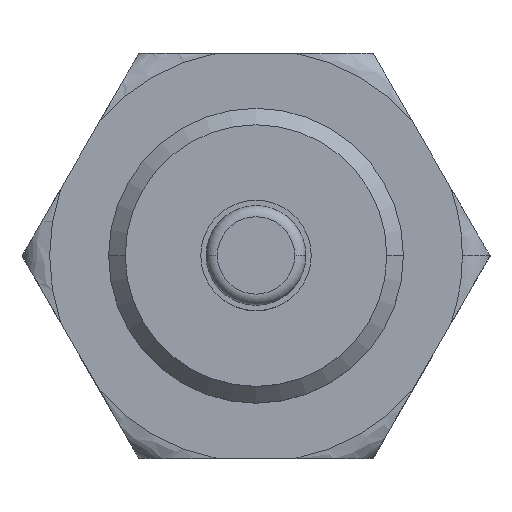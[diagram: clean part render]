
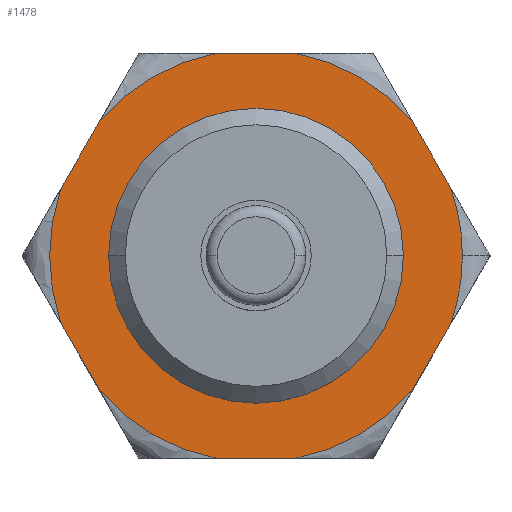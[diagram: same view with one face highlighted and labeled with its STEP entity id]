
A CAD part, top view. The second image highlights one B-rep face of the part: STEP entity #1478.
In plain terms, the highlighted planar face has unit normal (0, 0, 1).
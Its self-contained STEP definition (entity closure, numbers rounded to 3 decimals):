
#7 = VERTEX_POINT ( 'NONE', #547 ) ;
#14 = CARTESIAN_POINT ( 'NONE',  ( -8.468, 7.333, 3. ) ) ;
#25 = CIRCLE ( 'NONE', #1703, 8. ) ;
#32 = DIRECTION ( 'NONE',  ( 0., 0., 1. ) ) ;
#89 = EDGE_CURVE ( 'NONE', #1246, #529, #327, .T. ) ;
#97 = CARTESIAN_POINT ( 'NONE',  ( 8., 0., 3. ) ) ;
#109 = VERTEX_POINT ( 'NONE', #393 ) ;
#114 = EDGE_CURVE ( 'NONE', #364, #7, #1498, .T. ) ;
#141 = VERTEX_POINT ( 'NONE', #1108 ) ;
#143 = EDGE_CURVE ( 'NONE', #1560, #1518, #1914, .T. ) ;
#177 = PLANE ( 'NONE',  #1301 ) ;
#179 = ORIENTED_EDGE ( 'NONE', *, *, #1468, .T. ) ;
#185 = CARTESIAN_POINT ( 'NONE',  ( 0., 0., 3. ) ) ;
#191 = CIRCLE ( 'NONE', #461, 11.202 ) ;
#209 = EDGE_CURVE ( 'NONE', #109, #942, #1272, .T. ) ;
#220 = DIRECTION ( 'NONE',  ( 0., 0., 1. ) ) ;
#221 = AXIS2_PLACEMENT_3D ( 'NONE', #1201, #1668, #1229 ) ;
#242 = DIRECTION ( 'NONE',  ( 0.5, -0.866, 0. ) ) ;
#255 = CARTESIAN_POINT ( 'NONE',  ( -6.351, 11., 3. ) ) ;
#256 = EDGE_CURVE ( 'NONE', #141, #1461, #1944, .T. ) ;
#282 = CARTESIAN_POINT ( 'NONE',  ( -6.351, -11., 3. ) ) ;
#285 = DIRECTION ( 'NONE',  ( -0.5, 0.866, 0. ) ) ;
#300 = DIRECTION ( 'NONE',  ( -1., 0., 0. ) ) ;
#305 = ORIENTED_EDGE ( 'NONE', *, *, #1443, .T. ) ;
#307 = LINE ( 'NONE', #944, #996 ) ;
#327 = CIRCLE ( 'NONE', #388, 11.202 ) ;
#343 = DIRECTION ( 'NONE',  ( 0., 0., -1. ) ) ;
#354 = AXIS2_PLACEMENT_3D ( 'NONE', #805, #32, #813 ) ;
#363 = DIRECTION ( 'NONE',  ( 0., 0., 1. ) ) ;
#364 = VERTEX_POINT ( 'NONE', #97 ) ;
#388 = AXIS2_PLACEMENT_3D ( 'NONE', #572, #560, #1032 ) ;
#393 = CARTESIAN_POINT ( 'NONE',  ( 8.468, 7.333, 3. ) ) ;
#410 = EDGE_CURVE ( 'NONE', #1618, #1425, #307, .T. ) ;
#424 = ORIENTED_EDGE ( 'NONE', *, *, #256, .T. ) ;
#461 = AXIS2_PLACEMENT_3D ( 'NONE', #185, #677, #1951 ) ;
#491 = DIRECTION ( 'NONE',  ( 1., 0., 0. ) ) ;
#501 = EDGE_CURVE ( 'NONE', #1113, #1987, #191, .T. ) ;
#512 = CARTESIAN_POINT ( 'NONE',  ( 0., 0., 3. ) ) ;
#529 = VERTEX_POINT ( 'NONE', #1968 ) ;
#547 = CARTESIAN_POINT ( 'NONE',  ( -8., 0., 3. ) ) ;
#551 = DIRECTION ( 'NONE',  ( 0., 0., 1. ) ) ;
#559 = EDGE_CURVE ( 'NONE', #7, #364, #25, .T. ) ;
#560 = DIRECTION ( 'NONE',  ( 0., 0., 1. ) ) ;
#564 = ORIENTED_EDGE ( 'NONE', *, *, #89, .T. ) ;
#572 = CARTESIAN_POINT ( 'NONE',  ( 0., 0., 3. ) ) ;
#576 = EDGE_CURVE ( 'NONE', #1467, #1560, #1061, .T. ) ;
#626 = LINE ( 'NONE', #1895, #1966 ) ;
#649 = LINE ( 'NONE', #2047, #1794 ) ;
#677 = DIRECTION ( 'NONE',  ( 0., 0., 1. ) ) ;
#679 = ORIENTED_EDGE ( 'NONE', *, *, #114, .F. ) ;
#689 = ORIENTED_EDGE ( 'NONE', *, *, #921, .T. ) ;
#713 = CIRCLE ( 'NONE', #1125, 11.202 ) ;
#790 = EDGE_CURVE ( 'NONE', #1425, #1246, #966, .T. ) ;
#805 = CARTESIAN_POINT ( 'NONE',  ( 0., 0., 3. ) ) ;
#811 = EDGE_LOOP ( 'NONE', ( #305, #1785, #2079, #424, #689, #1997, #1278, #1590, #1686, #179, #903, #1287, #564 ) ) ;
#813 = DIRECTION ( 'NONE',  ( 1., 0., 0. ) ) ;
#814 = DIRECTION ( 'NONE',  ( 1., 0., 0. ) ) ;
#829 = DIRECTION ( 'NONE',  ( 1., 0., 0. ) ) ;
#891 = CARTESIAN_POINT ( 'NONE',  ( -12.702, 0., 3. ) ) ;
#903 = ORIENTED_EDGE ( 'NONE', *, *, #410, .T. ) ;
#921 = EDGE_CURVE ( 'NONE', #1461, #1113, #1712, .T. ) ;
#934 = EDGE_CURVE ( 'NONE', #1987, #1467, #1386, .T. ) ;
#938 = CARTESIAN_POINT ( 'NONE',  ( -10.584, 3.667, 3. ) ) ;
#942 = VERTEX_POINT ( 'NONE', #2024 ) ;
#944 = CARTESIAN_POINT ( 'NONE',  ( 6.351, -11., 3. ) ) ;
#966 = CIRCLE ( 'NONE', #1310, 11.202 ) ;
#969 = DIRECTION ( 'NONE',  ( 0., 0., 1. ) ) ;
#996 = VECTOR ( 'NONE', #1267, 1000. ) ;
#1032 = DIRECTION ( 'NONE',  ( 1., 0., 0. ) ) ;
#1036 = EDGE_CURVE ( 'NONE', #942, #141, #649, .T. ) ;
#1061 = CIRCLE ( 'NONE', #354, 11.202 ) ;
#1076 = EDGE_LOOP ( 'NONE', ( #1205, #679 ) ) ;
#1084 = CARTESIAN_POINT ( 'NONE',  ( 10.584, -3.667, 3. ) ) ;
#1089 = DIRECTION ( 'NONE',  ( 1., 0., 0. ) ) ;
#1108 = CARTESIAN_POINT ( 'NONE',  ( -2.116, 11., 3. ) ) ;
#1113 = VERTEX_POINT ( 'NONE', #938 ) ;
#1125 = AXIS2_PLACEMENT_3D ( 'NONE', #1150, #363, #814 ) ;
#1126 = FACE_OUTER_BOUND ( 'NONE', #811, .T. ) ;
#1141 = CARTESIAN_POINT ( 'NONE',  ( 0., -22., 3. ) ) ;
#1150 = CARTESIAN_POINT ( 'NONE',  ( 0., 0., 3. ) ) ;
#1196 = CARTESIAN_POINT ( 'NONE',  ( 11.202, 0., 3. ) ) ;
#1201 = CARTESIAN_POINT ( 'NONE',  ( 0., 0., 3. ) ) ;
#1205 = ORIENTED_EDGE ( 'NONE', *, *, #559, .F. ) ;
#1229 = DIRECTION ( 'NONE',  ( 1., 0., 0. ) ) ;
#1246 = VERTEX_POINT ( 'NONE', #1196 ) ;
#1267 = DIRECTION ( 'NONE',  ( 0.5, 0.866, 0. ) ) ;
#1272 = CIRCLE ( 'NONE', #1471, 11.202 ) ;
#1278 = ORIENTED_EDGE ( 'NONE', *, *, #934, .T. ) ;
#1286 = DIRECTION ( 'NONE',  ( 1., 0., 0. ) ) ;
#1287 = ORIENTED_EDGE ( 'NONE', *, *, #790, .T. ) ;
#1301 = AXIS2_PLACEMENT_3D ( 'NONE', #1141, #343, #1807 ) ;
#1310 = AXIS2_PLACEMENT_3D ( 'NONE', #1620, #220, #491 ) ;
#1386 = LINE ( 'NONE', #891, #2045 ) ;
#1425 = VERTEX_POINT ( 'NONE', #1084 ) ;
#1443 = EDGE_CURVE ( 'NONE', #529, #109, #626, .T. ) ;
#1455 = CARTESIAN_POINT ( 'NONE',  ( -8.468, -7.333, 3. ) ) ;
#1461 = VERTEX_POINT ( 'NONE', #14 ) ;
#1467 = VERTEX_POINT ( 'NONE', #1455 ) ;
#1468 = EDGE_CURVE ( 'NONE', #1518, #1618, #713, .T. ) ;
#1471 = AXIS2_PLACEMENT_3D ( 'NONE', #2050, #1769, #1286 ) ;
#1475 = CARTESIAN_POINT ( 'NONE',  ( 2.116, -11., 3. ) ) ;
#1478 = ADVANCED_FACE ( 'NONE', ( #1625, #1126 ), #177, .F. ) ;
#1498 = CIRCLE ( 'NONE', #221, 8. ) ;
#1503 = VECTOR ( 'NONE', #1688, 1000. ) ;
#1518 = VERTEX_POINT ( 'NONE', #1475 ) ;
#1538 = AXIS2_PLACEMENT_3D ( 'NONE', #1866, #551, #1683 ) ;
#1560 = VERTEX_POINT ( 'NONE', #1970 ) ;
#1590 = ORIENTED_EDGE ( 'NONE', *, *, #576, .T. ) ;
#1618 = VERTEX_POINT ( 'NONE', #1995 ) ;
#1620 = CARTESIAN_POINT ( 'NONE',  ( 0., 0., 3. ) ) ;
#1625 = FACE_BOUND ( 'NONE', #1076, .T. ) ;
#1668 = DIRECTION ( 'NONE',  ( 0., 0., 1. ) ) ;
#1683 = DIRECTION ( 'NONE',  ( 1., 0., 0. ) ) ;
#1686 = ORIENTED_EDGE ( 'NONE', *, *, #143, .T. ) ;
#1688 = DIRECTION ( 'NONE',  ( -0.5, -0.866, 0. ) ) ;
#1703 = AXIS2_PLACEMENT_3D ( 'NONE', #512, #969, #829 ) ;
#1712 = LINE ( 'NONE', #255, #1503 ) ;
#1769 = DIRECTION ( 'NONE',  ( 0., 0., 1. ) ) ;
#1785 = ORIENTED_EDGE ( 'NONE', *, *, #209, .T. ) ;
#1794 = VECTOR ( 'NONE', #300, 1000. ) ;
#1807 = DIRECTION ( 'NONE',  ( -1., 0., 0. ) ) ;
#1866 = CARTESIAN_POINT ( 'NONE',  ( 0., 0., 3. ) ) ;
#1895 = CARTESIAN_POINT ( 'NONE',  ( 12.702, 0., 3. ) ) ;
#1914 = LINE ( 'NONE', #282, #1973 ) ;
#1917 = CARTESIAN_POINT ( 'NONE',  ( -10.584, -3.667, 3. ) ) ;
#1944 = CIRCLE ( 'NONE', #1538, 11.202 ) ;
#1951 = DIRECTION ( 'NONE',  ( 1., 0., 0. ) ) ;
#1966 = VECTOR ( 'NONE', #285, 1000. ) ;
#1968 = CARTESIAN_POINT ( 'NONE',  ( 10.584, 3.667, 3. ) ) ;
#1970 = CARTESIAN_POINT ( 'NONE',  ( -2.116, -11., 3. ) ) ;
#1973 = VECTOR ( 'NONE', #1089, 1000. ) ;
#1987 = VERTEX_POINT ( 'NONE', #1917 ) ;
#1995 = CARTESIAN_POINT ( 'NONE',  ( 8.468, -7.333, 3. ) ) ;
#1997 = ORIENTED_EDGE ( 'NONE', *, *, #501, .T. ) ;
#2024 = CARTESIAN_POINT ( 'NONE',  ( 2.116, 11., 3. ) ) ;
#2045 = VECTOR ( 'NONE', #242, 1000. ) ;
#2047 = CARTESIAN_POINT ( 'NONE',  ( 6.351, 11., 3. ) ) ;
#2050 = CARTESIAN_POINT ( 'NONE',  ( 0., 0., 3. ) ) ;
#2079 = ORIENTED_EDGE ( 'NONE', *, *, #1036, .T. ) ;
